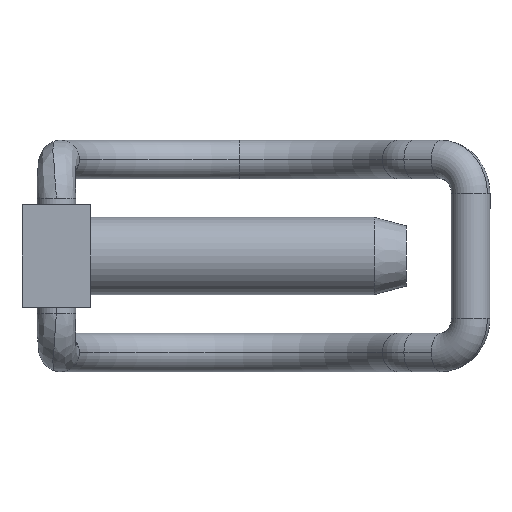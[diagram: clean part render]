
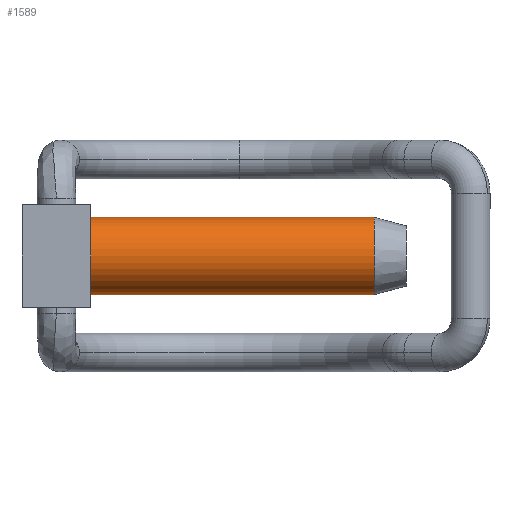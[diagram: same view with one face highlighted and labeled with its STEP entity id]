
A CAD part, left-side view. The second image highlights one B-rep face of the part: STEP entity #1589.
In plain terms, the highlighted cylindrical face has radius 5.5 mm (diameter 11 mm), a partial arc.
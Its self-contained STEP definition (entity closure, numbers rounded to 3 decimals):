
#41 = EDGE_LOOP ( 'NONE', ( #74, #1628, #174, #1012 ) ) ;
#63 = CARTESIAN_POINT ( 'NONE',  ( 0., -45., 5.5 ) ) ;
#74 = ORIENTED_EDGE ( 'NONE', *, *, #1197, .F. ) ;
#80 = EDGE_CURVE ( 'NONE', #217, #1636, #1736, .T. ) ;
#174 = ORIENTED_EDGE ( 'NONE', *, *, #1410, .T. ) ;
#179 = VECTOR ( 'NONE', #1620, 1000. ) ;
#217 = VERTEX_POINT ( 'NONE', #1264 ) ;
#223 = CARTESIAN_POINT ( 'NONE',  ( 0., -45., 0. ) ) ;
#292 = AXIS2_PLACEMENT_3D ( 'NONE', #1482, #1490, #625 ) ;
#336 = CARTESIAN_POINT ( 'NONE',  ( 0., 0., 0. ) ) ;
#339 = LINE ( 'NONE', #63, #179 ) ;
#366 = CYLINDRICAL_SURFACE ( 'NONE', #783, 5.5 ) ;
#399 = FACE_OUTER_BOUND ( 'NONE', #41, .T. ) ;
#590 = DIRECTION ( 'NONE',  ( 0., 1., 0. ) ) ;
#625 = DIRECTION ( 'NONE',  ( 0., 0., 1. ) ) ;
#651 = DIRECTION ( 'NONE',  ( 0., 0., 1. ) ) ;
#694 = VERTEX_POINT ( 'NONE', #795 ) ;
#783 = AXIS2_PLACEMENT_3D ( 'NONE', #223, #1373, #801 ) ;
#795 = CARTESIAN_POINT ( 'NONE',  ( 0., 0., 5.5 ) ) ;
#801 = DIRECTION ( 'NONE',  ( 0., 0., 1. ) ) ;
#834 = AXIS2_PLACEMENT_3D ( 'NONE', #336, #913, #651 ) ;
#913 = DIRECTION ( 'NONE',  ( 0., 1., 0. ) ) ;
#999 = CARTESIAN_POINT ( 'NONE',  ( 0., -45., -5.5 ) ) ;
#1012 = ORIENTED_EDGE ( 'NONE', *, *, #1772, .F. ) ;
#1132 = CARTESIAN_POINT ( 'NONE',  ( 0., -40.439, 5.5 ) ) ;
#1171 = VECTOR ( 'NONE', #590, 1000. ) ;
#1197 = EDGE_CURVE ( 'NONE', #217, #1781, #1714, .T. ) ;
#1238 = CARTESIAN_POINT ( 'NONE',  ( 0., 0., -5.5 ) ) ;
#1264 = CARTESIAN_POINT ( 'NONE',  ( 0., -40.439, -5.5 ) ) ;
#1373 = DIRECTION ( 'NONE',  ( 0., 1., 0. ) ) ;
#1410 = EDGE_CURVE ( 'NONE', #1636, #694, #339, .T. ) ;
#1482 = CARTESIAN_POINT ( 'NONE',  ( 0., -40.439, 0. ) ) ;
#1490 = DIRECTION ( 'NONE',  ( 0., 1., 0. ) ) ;
#1589 = ADVANCED_FACE ( 'NONE', ( #399 ), #366, .T. ) ;
#1620 = DIRECTION ( 'NONE',  ( 0., 1., 0. ) ) ;
#1628 = ORIENTED_EDGE ( 'NONE', *, *, #80, .T. ) ;
#1636 = VERTEX_POINT ( 'NONE', #1132 ) ;
#1714 = LINE ( 'NONE', #999, #1171 ) ;
#1736 = CIRCLE ( 'NONE', #292, 5.5 ) ;
#1772 = EDGE_CURVE ( 'NONE', #1781, #694, #1853, .T. ) ;
#1781 = VERTEX_POINT ( 'NONE', #1238 ) ;
#1853 = CIRCLE ( 'NONE', #834, 5.5 ) ;
